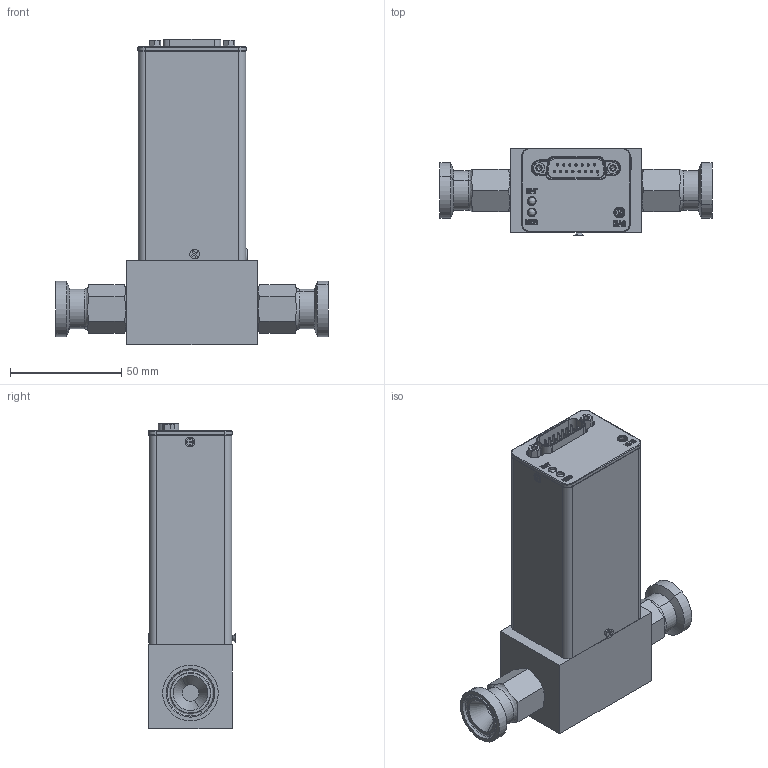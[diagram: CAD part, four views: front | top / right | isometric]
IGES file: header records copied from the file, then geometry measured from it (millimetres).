
Start section: SolidWorks IGES file using analytic representation for surfaces
Global section: file name: G:\Engineering\CAD MODELS FOR SALES\CAD MODEL STORAGE\SLA\SLA5860\CUSTOMER FILES\IGES\SLA5860-S-5B-0-C-REVB.IGS; native system: SolidWorks 2019; preprocessor: SolidWorks 2019; author: cfehr; date: 191122.102759; units: inch
Bounding box: 122.58 x 39.41 x 137.39 mm (x, y, z)
Volume: 119989.6 mm3; surface area: 62331.5 mm2
Topology: 42 solids, 42 shells, 1978 faces, 5276 edges, 3287 vertices
Faces by surface type: plane 937, revolution 814, bspline 227
